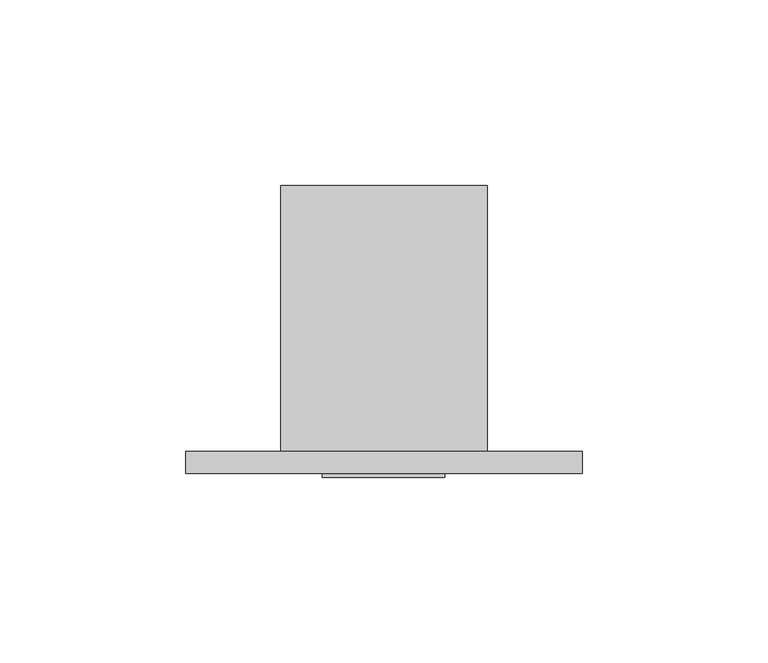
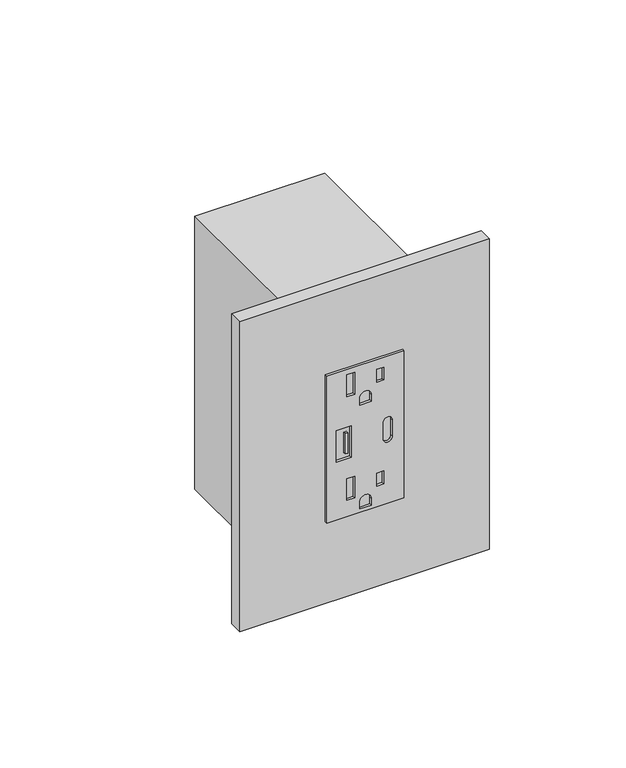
"""IFC4 building model written with IfcOpenShell, lengths in millimetres: proxy geometry, Electrical-Teknion-EPDMS_Vertical_Power_Data_Single-R2019 : PD Vertical Module - Single 15 Amp USB (A+C)."""

import ifcopenshell
import ifcopenshell.guid

model = None  # the IFC model being written
_history = None  # IfcOwnerHistory: only IFC2X3 demands one
_inside = {}  # id of a spatial element -> (the spatial element, [elements in it])
_under = {}  # id of a project, library or spatial element -> (it, [spatial elements below it])
_declared = {}  # id of a project -> (the project, [libraries it declares])
_typed = {}  # id of a type object -> (the type object, [elements of that type])
_made_of = {}  # id of a material, layer set ... -> (it, [elements and type objects made of it])


def new_model(schema):
    """Start an empty IFC model of exactly this schema.

    Asked for "IFC4X3", IfcOpenShell would pick the latest addendum, in which some entities
    have other attributes; the version numbers below select the first issue.
    IFC2X3 requires an IfcOwnerHistory on every rooted entity: one is made here for all.
    """
    global model, _history
    if schema == "IFC4X3":
        model = ifcopenshell.file(schema_version=(4, 3, 0, 0))
    else:
        model = ifcopenshell.file(schema=schema)
    _inside.clear()
    _under.clear()
    _declared.clear()
    _typed.clear()
    _made_of.clear()
    _history = None
    if model.schema == "IFC2X3":
        org = make("IfcOrganization", Name="unknown")
        user = make(
            "IfcPersonAndOrganization",
            ThePerson=make("IfcPerson", FamilyName="unknown"),
            TheOrganization=org,
        )
        app = make(
            "IfcApplication",
            ApplicationDeveloper=org,
            Version="unknown",
            ApplicationFullName="unknown",
            ApplicationIdentifier="unknown",
        )
        _history = make(
            "IfcOwnerHistory",
            OwningUser=user,
            OwningApplication=app,
            ChangeAction="ADDED",
            CreationDate=0,
        )
    return model


def make(cls, **values):
    """One entity of the class cls with the attributes given. An attribute that is None is left unset."""
    return model.create_entity(
        cls, **{name: value for name, value in values.items() if value is not None}
    )


def rooted(cls, **values):
    """An entity with a GlobalId (a new one), such as an element, a storey or a relation."""
    return make(cls, GlobalId=ifcopenshell.guid.new(), OwnerHistory=_history, **values)


def si_unit(unit_type, name, prefix=None):
    """IfcSIUnit, for example si_unit("LENGTHUNIT", "METRE", prefix="MILLI")."""
    return make("IfcSIUnit", UnitType=unit_type, Prefix=prefix, Name=name)


def assignment(units):
    """IfcUnitAssignment: the units of a project."""
    return None if units is None else make("IfcUnitAssignment", Units=units)


def point(xyz):
    """IfcCartesianPoint."""
    return None if xyz is None else make("IfcCartesianPoint", Coordinates=xyz)


def direction(xyz):
    """IfcDirection."""
    return None if xyz is None else make("IfcDirection", DirectionRatios=xyz)


def frame(location, z_axis=None, x_axis=None):
    """IfcAxis2Placement3D, a coordinate frame: its origin and axes. An axis left out is left unset."""
    return make(
        "IfcAxis2Placement3D",
        Location=point(location),
        Axis=direction(z_axis),
        RefDirection=direction(x_axis),
    )


def frame_2d(location, x_axis=None):
    """IfcAxis2Placement2D, a coordinate frame in the plane: its origin and x axis."""
    return make(
        "IfcAxis2Placement2D", Location=point(location), RefDirection=direction(x_axis)
    )


def origin():
    """The frame at (0, 0, 0) with its axes left unset."""
    return frame((0.0, 0.0, 0.0))


def place(relative_to, where):
    """IfcLocalPlacement: puts the frame where relative to a parent placement (None: the world)."""
    return make(
        "IfcLocalPlacement", PlacementRelTo=relative_to, RelativePlacement=where
    )


def context(
    kind, dimensions, precision=None, world=None, true_north=None, identifier=None
):
    """IfcGeometricRepresentationContext, for example the 3D "Model" context."""
    return make(
        "IfcGeometricRepresentationContext",
        ContextIdentifier=identifier,
        ContextType=kind,
        CoordinateSpaceDimension=dimensions,
        Precision=precision,
        WorldCoordinateSystem=world,
        TrueNorth=true_north,
    )


def project(units=None, contexts=None):
    """IfcProject with its units and contexts."""
    return rooted(
        "IfcProject",
        Name="project",
        RepresentationContexts=contexts,
        UnitsInContext=assignment(units),
    )


def spatial(cls, under=None, at=None, **own):
    """A site, building, storey or space (cls), placed at a placement, below another one or the project."""
    s = rooted(cls, ObjectPlacement=at, **own)
    if under is not None:
        _under.setdefault(under.id(), (under, []))[1].append(s)
    return s


def polyline(points):
    """IfcPolyline through the points."""
    return make("IfcPolyline", Points=[point(p) for p in points])


def circle_curve(where, radius):
    """IfcCircle in the frame where."""
    return make("IfcCircle", Position=where, Radius=radius)


def trimmed(basis, trim1, trim2, sense, master):
    """IfcTrimmedCurve: the piece of a basis curve between two trims."""
    return make(
        "IfcTrimmedCurve",
        BasisCurve=basis,
        Trim1=trim1,
        Trim2=trim2,
        SenseAgreement=sense,
        MasterRepresentation=master,
    )


def segment(curve, same_sense, transition):
    """IfcCompositeCurveSegment."""
    return make(
        "IfcCompositeCurveSegment",
        Transition=transition,
        SameSense=same_sense,
        ParentCurve=curve,
    )


def composite_curve(segments, self_intersect=None):
    """IfcCompositeCurve: segments joined end to end."""
    return make("IfcCompositeCurve", Segments=segments, SelfIntersect=self_intersect)


def outline(outer, holes=None, kind="AREA"):
    """IfcArbitraryClosedProfileDef: a profile drawn as a closed curve; with holes, ...WithVoids."""
    if holes is None:
        return make("IfcArbitraryClosedProfileDef", ProfileType=kind, OuterCurve=outer)
    return make(
        "IfcArbitraryProfileDefWithVoids",
        ProfileType=kind,
        OuterCurve=outer,
        InnerCurves=holes,
    )


def extrude(swept, where, along, depth):
    """IfcExtrudedAreaSolid: the profile swept, set in the frame where, extruded along a direction by depth."""
    return make(
        "IfcExtrudedAreaSolid",
        SweptArea=swept,
        Position=where,
        ExtrudedDirection=direction(along),
        Depth=depth,
    )


def shape(context_of_items, identifier, shape_type, items):
    """IfcShapeRepresentation: the items that make up one representation, for example the "Body"."""
    return make(
        "IfcShapeRepresentation",
        ContextOfItems=context_of_items,
        RepresentationIdentifier=identifier,
        RepresentationType=shape_type,
        Items=items,
    )


def source(mapping_origin, context_of_items, identifier, shape_type, items):
    """IfcRepresentationMap: a shape defined once, which mapped items show again and again."""
    return make(
        "IfcRepresentationMap",
        MappingOrigin=mapping_origin,
        MappedRepresentation=shape(context_of_items, identifier, shape_type, items),
    )


def transform(
    local_origin,
    x_axis=None,
    y_axis=None,
    z_axis=None,
    scale=None,
    scale2=None,
    scale3=None,
    uniform=True,
):
    """IfcCartesianTransformationOperator3D, or its non-uniform kind. x_axis, y_axis, z_axis: its Axis1, 2, 3."""
    if uniform:
        return make(
            "IfcCartesianTransformationOperator3D",
            Axis1=direction(x_axis),
            Axis2=direction(y_axis),
            LocalOrigin=point(local_origin),
            Scale=scale,
            Axis3=direction(z_axis),
        )
    return make(
        "IfcCartesianTransformationOperator3DnonUniform",
        Axis1=direction(x_axis),
        Axis2=direction(y_axis),
        LocalOrigin=point(local_origin),
        Scale=scale,
        Axis3=direction(z_axis),
        Scale2=scale2,
        Scale3=scale3,
    )


def mapped(mapping_source, mapping_target):
    """IfcMappedItem: shows the shape of a source again, moved by a transform."""
    return make(
        "IfcMappedItem", MappingSource=mapping_source, MappingTarget=mapping_target
    )


def made_of(thing, what):
    """Note that an element or type object is made of a material, layer set ...; save() writes the relation."""
    if what is not None:
        _made_of.setdefault(what.id(), (what, []))[1].append(thing)
    return thing


def element(
    cls,
    number,
    at=None,
    inside=None,
    cuts=None,
    type_object=None,
    material=None,
    context=None,
    identifier="Body",
    shape_type=None,
    held_by="IfcProductDefinitionShape",
    body=None,
    shapes=None,
    **own,
):
    """One element of the class cls, such as IfcWall. Its Tag is "e" and its number.

    at: its placement. inside: the storey or other place that contains it. cuts: it is an
    opening in that element (IfcRelVoidsElement). A single representation is given by context,
    identifier, shape_type and body (its items); several are given by shapes. held_by: the class
    of the entity that holds the representations. save() writes the other relations.
    """
    e = rooted(cls, Tag="e%d" % number, ObjectPlacement=at, **own)
    if body is not None:
        shapes = [shape(context, identifier, shape_type, body)]
    if shapes is not None:
        e.Representation = make(held_by, Representations=shapes)
    if inside is not None:
        _inside.setdefault(inside.id(), (inside, []))[1].append(e)
    if cuts is not None:
        rooted(
            "IfcRelVoidsElement", RelatingBuildingElement=cuts, RelatedOpeningElement=e
        )
    if type_object is not None:
        _typed.setdefault(type_object.id(), (type_object, []))[1].append(e)
    return made_of(e, material)


def aggregate(whole, parts):
    """IfcRelAggregates: a whole, such as a stair, and the parts it consists of."""
    return rooted("IfcRelAggregates", RelatingObject=whole, RelatedObjects=parts)


def save(model, path):
    """Write the relations noted so far, then the file.

    IfcRelAggregates (storeys below a building ...), IfcRelContainedInSpatialStructure (elements
    in a storey), IfcRelDefinesByType, IfcRelAssociatesMaterial and IfcRelDeclares: one each for
    every whole, place, type object, material and project.
    """
    for whole, parts in _under.values():
        aggregate(whole, parts)
    for where, things in _inside.values():
        rooted(
            "IfcRelContainedInSpatialStructure",
            RelatedElements=things,
            RelatingStructure=where,
        )
    for kind, things in _typed.values():
        rooted("IfcRelDefinesByType", RelatedObjects=things, RelatingType=kind)
    for what, things in _made_of.values():
        rooted("IfcRelAssociatesMaterial", RelatedObjects=things, RelatingMaterial=what)
    for by, libraries in _declared.values():
        rooted("IfcRelDeclares", RelatingContext=by, RelatedDefinitions=libraries)
    model.write(path)


def electrical_fixtures_cc84fcd7(model_context):
    return source(origin(), model_context, "Body", "SweptSolid", [
        extrude(outline(polyline([(414.274, 44.0944), (414.274, 11.0998), (347.726, 11.0998), (347.726, 44.0944), (414.274, 44.0944)]), holes=[polyline([(411.8356, 22.9616), (402.0080649, 22.9616), (402.0080649, 19.6342), (411.8356, 19.6342), (411.8356, 22.9616)]), polyline([(409.8301324, 35.41014), (404.0135324, 35.41014), (404.0135324, 32.4358), (409.8301324, 32.4358), (409.8301324, 35.41014)]), composite_curve([segment(polyline([(396.24, 30.0609), (396.24, 25.1333), (399.3388, 25.1333)]), True, "CONTINUOUS"), segment(trimmed(circle_curve(frame_2d((399.3388, 27.5971)), 2.4638), [point((399.3388, 25.1333))], [point((399.3388, 30.0609))], True, "CARTESIAN"), True, "CONTINUOUS"), segment(polyline([(399.3388, 30.0609), (396.24, 30.0609)]), True, "CONTINUOUS")], self_intersect=False), polyline([(364.8456, 22.9616), (355.0180649, 22.9616), (355.0180649, 19.6342), (364.8456, 19.6342), (364.8456, 22.9616)]), polyline([(362.8401324, 35.41014), (357.0235324, 35.41014), (357.0235324, 32.4358), (362.8401324, 32.4358), (362.8401324, 35.41014)]), composite_curve([segment(polyline([(349.25, 30.0609), (349.25, 25.1333), (352.3488, 25.1333)]), True, "CONTINUOUS"), segment(trimmed(circle_curve(frame_2d((352.3488, 27.5971)), 2.4638), [point((352.3488, 25.1333))], [point((352.3488, 30.0609))], True, "CARTESIAN"), True, "CONTINUOUS"), segment(polyline([(352.3488, 30.0609), (349.25, 30.0609)]), True, "CONTINUOUS")], self_intersect=False), polyline([(388.0485, 21.59), (373.9515, 21.59), (373.9515, 15.0876), (388.0485, 15.0876), (388.0485, 21.59)]), composite_curve([segment(trimmed(circle_curve(frame_2d((377.2154, 37.1348)), 1.905), [point((377.2154, 39.0398))], [point((377.2154, 35.2298))], True, "CARTESIAN"), True, "CONTINUOUS"), segment(polyline([(377.2154, 35.2298), (384.7846, 35.2298)]), True, "CONTINUOUS"), segment(trimmed(circle_curve(frame_2d((384.7846, 37.1348)), 1.905), [point((384.7846, 35.2298))], [point((384.7846, 39.0398))], True, "CARTESIAN"), True, "CONTINUOUS"), segment(polyline([(384.7846, 39.0398), (377.2154, 39.0398)]), True, "CONTINUOUS")], self_intersect=False)]), frame((0.0, -6.9294746, 0.0), z_axis=(0.0, 1.0, 0.0), x_axis=(0.0, 0.0, 1.0)), (0.0, 0.0, 1.0), 1.0366746),
        extrude(outline(polyline([(20.0803959, -6.9294746), (18.9613268, -6.9294746), (18.9613268, -5.8928), (20.0803959, -5.8928), (20.0803959, -6.9294746)])), frame((0.0, 0.0, 376.2998162), z_axis=(0.0, 0.0, 1.0), x_axis=(1.0, 0.0, 0.0)), (0.0, 0.0, 1.0), 9.2470447),
        extrude(outline(polyline([(-25.6794, 0.0), (81.2292, 0.0), (81.2292, -5.8928), (-25.6794, -5.8928), (-25.6794, 0.0)])), frame((0.0, 0.0, 310.8198), z_axis=(0.0, 0.0, 1.0), x_axis=(1.0, 0.0, 0.0)), (0.0, 0.0, 1.0), 140.3604),
        extrude(outline(polyline([(55.5498, 0.0), (0.0, 0.0), (0.0, 71.7296), (55.5498, 71.7296), (55.5498, 0.0)])), frame((0.0, 0.0, 319.2526), z_axis=(0.0, 0.0, 1.0), x_axis=(1.0, 0.0, 0.0)), (0.0, 0.0, 1.0), 123.4948),
    ])


if __name__ == "__main__":
    model = new_model("IFC4")
    model_context = context("Model", 3, world=origin())
    ifc_project = project(units=[si_unit("LENGTHUNIT", "METRE", prefix="MILLI")], contexts=[model_context])
    site = spatial("IfcSite", under=ifc_project)
    building = spatial("IfcBuilding", under=site)
    placement = place(None, origin())
    electrical_fixtures_shape = electrical_fixtures_cc84fcd7(model_context)
    element("IfcBuildingElementProxy", 1, Name="Electrical-Teknion-EPDMS_Vertical_Power_Data_Single-R2019 : PD Vertical Module - Single 15 Amp USB (A+C)", ObjectType="Electrical-Teknion-EPDMS_Vertical_Power_Data_Single-R2019 : PD Vertical Module - Single 15 Amp USB (A+C)", at=placement, inside=building, context=model_context, shape_type="MappedRepresentation", body=[
        mapped(electrical_fixtures_shape, transform((0.0, 0.0, 0.0), x_axis=(1.0, 0.0, 0.0), y_axis=(0.0, 1.0, 0.0), z_axis=(0.0, 0.0, 1.0))),
    ])
    save(model, "model.ifc")
